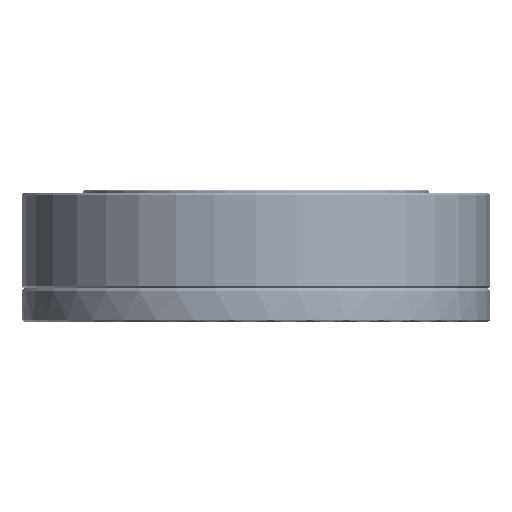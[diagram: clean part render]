
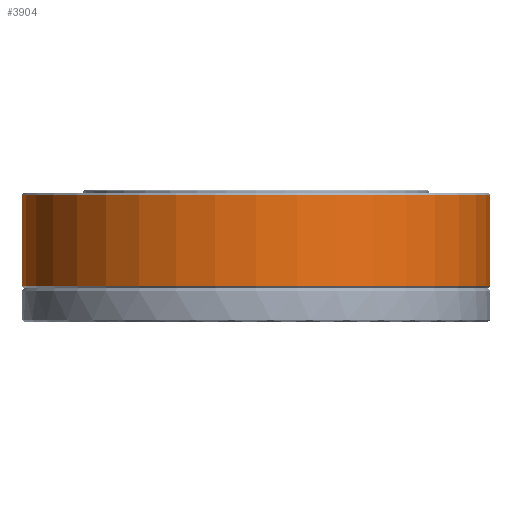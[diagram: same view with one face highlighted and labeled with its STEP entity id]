
A CAD part, front view. The second image highlights one B-rep face of the part: STEP entity #3904.
In plain terms, the highlighted cylindrical face has radius 40 mm (diameter 80 mm), a full revolution.
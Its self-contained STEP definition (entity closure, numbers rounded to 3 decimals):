
#3904=ADVANCED_FACE('',(#4793,#4794),#4609,.T.);
#4609=CYLINDRICAL_SURFACE('',#12395,40.);
#4793=FACE_BOUND('',#5571,.T.);
#4794=FACE_BOUND('',#5572,.T.);
#5571=EDGE_LOOP('',(#6678));
#5572=EDGE_LOOP('',(#6679));
#6678=ORIENTED_EDGE('',*,*,#10527,.T.);
#6679=ORIENTED_EDGE('',*,*,#10528,.T.);
#9458=VERTEX_POINT('',#16111);
#9459=VERTEX_POINT('',#16113);
#10527=EDGE_CURVE('',#9458,#9458,#11917,.T.);
#10528=EDGE_CURVE('',#9459,#9459,#11918,.T.);
#11917=CIRCLE('',#12393,40.);
#11918=CIRCLE('',#12394,40.);
#12393=AXIS2_PLACEMENT_3D('',#16110,#13501,#13502);
#12394=AXIS2_PLACEMENT_3D('',#16112,#13503,#13504);
#12395=AXIS2_PLACEMENT_3D('',#16114,#13505,#13506);
#13501=DIRECTION('',(0.,0.,-1.));
#13502=DIRECTION('',(1.,0.,0.));
#13503=DIRECTION('',(0.,0.,1.));
#13504=DIRECTION('',(1.,0.,0.));
#13505=DIRECTION('',(0.,0.,1.));
#13506=DIRECTION('',(1.,0.,0.));
#16110=CARTESIAN_POINT('',(0.,0.,-0.4));
#16111=CARTESIAN_POINT('',(40.,0.,-0.4));
#16112=CARTESIAN_POINT('',(0.,0.,-16.));
#16113=CARTESIAN_POINT('',(40.,0.,-16.));
#16114=CARTESIAN_POINT('',(0.,0.,-16.4));
